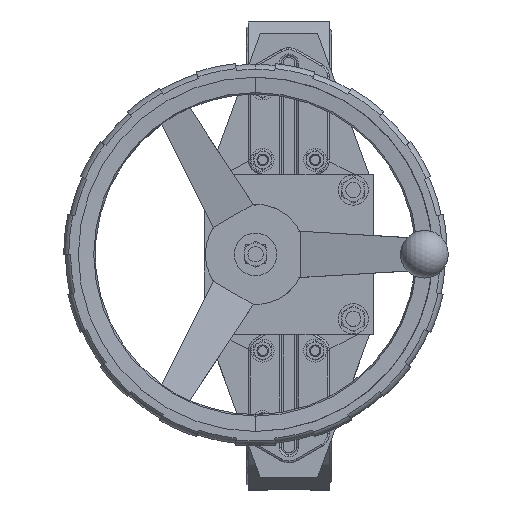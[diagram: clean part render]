
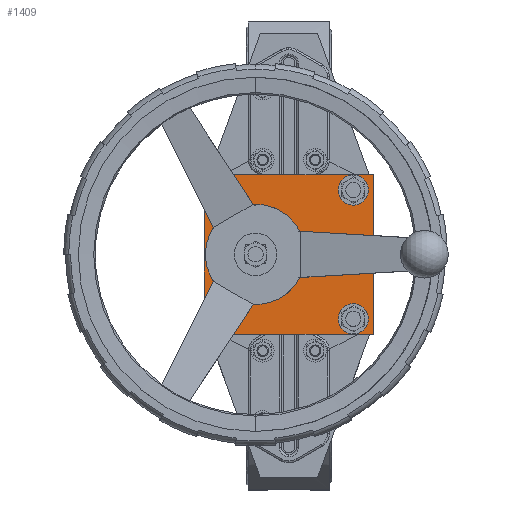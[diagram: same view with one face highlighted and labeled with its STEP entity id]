
A CAD part, top view. The second image highlights one B-rep face of the part: STEP entity #1409.
In plain terms, the highlighted planar face has unit normal (0, 0, 1).
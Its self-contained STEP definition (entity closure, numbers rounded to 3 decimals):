
#1409=ADVANCED_FACE('',(#4308,#4309,#4310,#4311,#4312,#4313),#4314,.T.);
#4308=FACE_BOUND('',#10097,.T.);
#4309=FACE_BOUND('',#10098,.T.);
#4310=FACE_OUTER_BOUND('',#10099,.T.);
#4311=FACE_BOUND('',#10100,.T.);
#4312=FACE_BOUND('',#10101,.T.);
#4313=FACE_BOUND('',#10102,.T.);
#4314=PLANE('',#10103);
#10097=EDGE_LOOP('',(#21217,#21218));
#10098=EDGE_LOOP('',(#21219,#21220));
#10099=EDGE_LOOP('',(#21221,#21222,#21223,#21224));
#10100=EDGE_LOOP('',(#21225,#21226));
#10101=EDGE_LOOP('',(#21227,#21228));
#10102=EDGE_LOOP('',(#21229,#21230));
#10103=AXIS2_PLACEMENT_3D('',#21231,#21232,#21233);
#21217=ORIENTED_EDGE('',*,*,#22658,.F.);
#21218=ORIENTED_EDGE('',*,*,#25832,.F.);
#21219=ORIENTED_EDGE('',*,*,#23118,.F.);
#21220=ORIENTED_EDGE('',*,*,#25366,.F.);
#21221=ORIENTED_EDGE('',*,*,#25834,.T.);
#21222=ORIENTED_EDGE('',*,*,#24107,.T.);
#21223=ORIENTED_EDGE('',*,*,#25763,.T.);
#21224=ORIENTED_EDGE('',*,*,#25451,.T.);
#21225=ORIENTED_EDGE('',*,*,#22602,.F.);
#21226=ORIENTED_EDGE('',*,*,#25835,.F.);
#21227=ORIENTED_EDGE('',*,*,#23512,.F.);
#21228=ORIENTED_EDGE('',*,*,#24132,.F.);
#21229=ORIENTED_EDGE('',*,*,#23301,.F.);
#21230=ORIENTED_EDGE('',*,*,#24833,.F.);
#21231=CARTESIAN_POINT('',(88.5,83.5,922.));
#21232=DIRECTION('',(0.,0.,1.));
#21233=DIRECTION('',(-1.,0.,0.));
#22602=EDGE_CURVE('',#27530,#27533,#27534,.T.);
#22658=EDGE_CURVE('',#27643,#27639,#27645,.T.);
#23118=EDGE_CURVE('',#28543,#28539,#28545,.T.);
#23301=EDGE_CURVE('',#28894,#28890,#28896,.T.);
#23512=EDGE_CURVE('',#29296,#29292,#29298,.T.);
#24107=EDGE_CURVE('',#30295,#30293,#30296,.T.);
#24132=EDGE_CURVE('',#29292,#29296,#30338,.T.);
#24833=EDGE_CURVE('',#28890,#28894,#31395,.T.);
#25366=EDGE_CURVE('',#28539,#28543,#32151,.T.);
#25451=EDGE_CURVE('',#32260,#32258,#32261,.T.);
#25763=EDGE_CURVE('',#30293,#32260,#32642,.T.);
#25832=EDGE_CURVE('',#27639,#27643,#32715,.T.);
#25834=EDGE_CURVE('',#32258,#30295,#32717,.T.);
#25835=EDGE_CURVE('',#27533,#27530,#32718,.T.);
#27530=VERTEX_POINT('',#33916);
#27533=VERTEX_POINT('',#33920);
#27534=CIRCLE('',#33921,27.5);
#27639=VERTEX_POINT('',#34072);
#27643=VERTEX_POINT('',#34077);
#27645=CIRCLE('',#34080,15.845);
#28539=VERTEX_POINT('',#35582);
#28543=VERTEX_POINT('',#35587);
#28545=CIRCLE('',#35590,15.845);
#28890=VERTEX_POINT('',#36246);
#28894=VERTEX_POINT('',#36251);
#28896=CIRCLE('',#36254,15.845);
#29292=VERTEX_POINT('',#37058);
#29296=VERTEX_POINT('',#37063);
#29298=CIRCLE('',#37066,15.845);
#30293=VERTEX_POINT('',#39024);
#30295=VERTEX_POINT('',#39027);
#30296=LINE('',#39028,#39029);
#30338=CIRCLE('',#39121,15.845);
#31395=CIRCLE('',#41550,15.845);
#32151=CIRCLE('',#43281,15.845);
#32258=VERTEX_POINT('',#43471);
#32260=VERTEX_POINT('',#43474);
#32261=LINE('',#43475,#43476);
#32642=LINE('',#44168,#44169);
#32715=CIRCLE('',#44345,15.845);
#32717=LINE('',#44347,#44348);
#32718=CIRCLE('',#44349,27.5);
#33916=CARTESIAN_POINT('',(-7.5,0.,922.));
#33920=CARTESIAN_POINT('',(-62.5,0.,922.));
#33921=AXIS2_PLACEMENT_3D('',#45776,#45777,#45778);
#34072=CARTESIAN_POINT('',(-83.345,67.5,922.));
#34077=CARTESIAN_POINT('',(-51.655,67.5,922.));
#34080=AXIS2_PLACEMENT_3D('',#45891,#45892,#45893);
#35582=CARTESIAN_POINT('',(-83.345,-67.5,922.));
#35587=CARTESIAN_POINT('',(-51.655,-67.5,922.));
#35590=AXIS2_PLACEMENT_3D('',#46774,#46775,#46776);
#36246=CARTESIAN_POINT('',(51.655,67.5,922.));
#36251=CARTESIAN_POINT('',(83.345,67.5,922.));
#36254=AXIS2_PLACEMENT_3D('',#47089,#47090,#47091);
#37058=CARTESIAN_POINT('',(51.655,-67.5,922.));
#37063=CARTESIAN_POINT('',(83.345,-67.5,922.));
#37066=AXIS2_PLACEMENT_3D('',#47465,#47466,#47467);
#39024=CARTESIAN_POINT('',(-88.5,83.5,922.));
#39027=CARTESIAN_POINT('',(88.5,83.5,922.));
#39028=CARTESIAN_POINT('',(88.5,83.5,922.));
#39029=VECTOR('',#48462,1000.);
#39121=AXIS2_PLACEMENT_3D('',#48493,#48494,#48495);
#41550=AXIS2_PLACEMENT_3D('',#49625,#49626,#49627);
#43281=AXIS2_PLACEMENT_3D('',#50485,#50486,#50487);
#43471=CARTESIAN_POINT('',(88.5,-83.5,922.));
#43474=CARTESIAN_POINT('',(-88.5,-83.5,922.));
#43475=CARTESIAN_POINT('',(-88.5,-83.5,922.));
#43476=VECTOR('',#50656,1000.);
#44168=CARTESIAN_POINT('',(-88.5,83.5,922.));
#44169=VECTOR('',#51235,1000.);
#44345=AXIS2_PLACEMENT_3D('',#51357,#51358,#51359);
#44347=CARTESIAN_POINT('',(88.5,-83.5,922.));
#44348=VECTOR('',#51363,1000.);
#44349=AXIS2_PLACEMENT_3D('',#51364,#51365,#51366);
#45776=CARTESIAN_POINT('',(-35.,0.,922.));
#45777=DIRECTION('',(0.,0.,1.));
#45778=DIRECTION('',(1.,0.,0.));
#45891=CARTESIAN_POINT('',(-67.5,67.5,922.));
#45892=DIRECTION('',(0.,0.,1.));
#45893=DIRECTION('',(1.,0.,0.));
#46774=CARTESIAN_POINT('',(-67.5,-67.5,922.));
#46775=DIRECTION('',(0.,0.,1.));
#46776=DIRECTION('',(1.,0.,0.));
#47089=CARTESIAN_POINT('',(67.5,67.5,922.));
#47090=DIRECTION('',(0.,0.,1.));
#47091=DIRECTION('',(1.,0.,0.));
#47465=CARTESIAN_POINT('',(67.5,-67.5,922.));
#47466=DIRECTION('',(0.,0.,1.));
#47467=DIRECTION('',(1.,0.,0.));
#48462=DIRECTION('',(-1.,0.,0.));
#48493=CARTESIAN_POINT('',(67.5,-67.5,922.));
#48494=DIRECTION('',(0.,0.,1.));
#48495=DIRECTION('',(1.,0.,0.));
#49625=CARTESIAN_POINT('',(67.5,67.5,922.));
#49626=DIRECTION('',(0.,0.,1.));
#49627=DIRECTION('',(1.,0.,0.));
#50485=CARTESIAN_POINT('',(-67.5,-67.5,922.));
#50486=DIRECTION('',(0.,0.,1.));
#50487=DIRECTION('',(1.,0.,0.));
#50656=DIRECTION('',(1.,0.,0.));
#51235=DIRECTION('',(0.,-1.,0.));
#51357=CARTESIAN_POINT('',(-67.5,67.5,922.));
#51358=DIRECTION('',(0.,0.,1.));
#51359=DIRECTION('',(1.,0.,0.));
#51363=DIRECTION('',(0.,1.,0.));
#51364=CARTESIAN_POINT('',(-35.,0.,922.));
#51365=DIRECTION('',(0.,0.,1.));
#51366=DIRECTION('',(1.,0.,0.));
